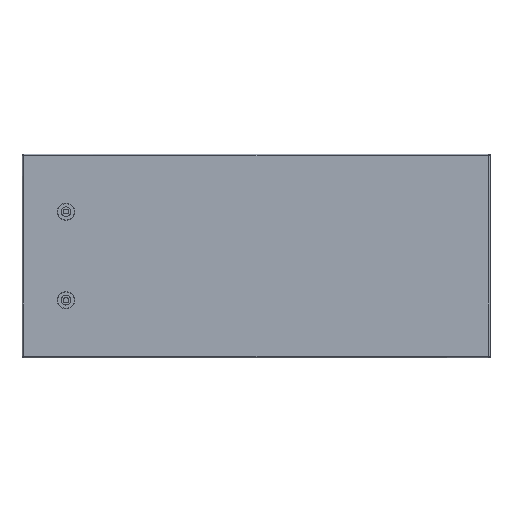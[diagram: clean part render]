
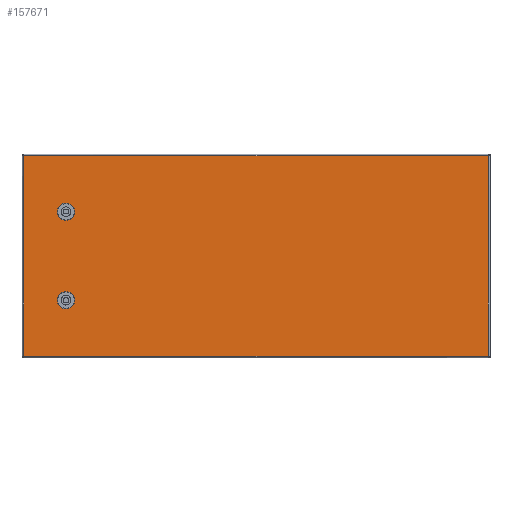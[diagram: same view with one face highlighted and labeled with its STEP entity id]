
A CAD part, top view. The second image highlights one B-rep face of the part: STEP entity #157671.
In plain terms, the highlighted planar face has unit normal (0, 0, 1).
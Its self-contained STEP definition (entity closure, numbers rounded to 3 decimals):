
#156781=CARTESIAN_POINT(' ',(2.8,0.8,0.));
#156786=DIRECTION(' ',(1.,0.,0.));
#156791=VECTOR(' ',#156786,1.);
#156796=LINE('',#156781,#156791);
#156801=CARTESIAN_POINT(' ',(2.8,0.8,0.));
#156802=VERTEX_POINT(' ',#156801);
#156806=CARTESIAN_POINT(' ',(791.2,0.8,0.));
#156807=VERTEX_POINT(' ',#156806);
#156811=EDGE_CURVE(' ',#156802,#156807,#156796,.T.);
#157531=DIRECTION(' ',(-0.,-0.,1.));
#157536=CARTESIAN_POINT(' ',(791.2,0.8,0.));
#157541=DIRECTION(' ',(0.,1.,0.));
#157546=AXIS2_PLACEMENT_3D(' ',#157536,#157531,#157541);
#157551=PLANE('NONE',#157546);
#157556=ORIENTED_EDGE(' ',*,*,#156811,.T.);
#157561=CARTESIAN_POINT(' ',(791.2,340.2,0.));
#157566=DIRECTION(' ',(0.,-1.,0.));
#157571=VECTOR(' ',#157566,1.);
#157576=LINE('',#157561,#157571);
#157581=CARTESIAN_POINT(' ',(791.2,340.2,0.));
#157582=VERTEX_POINT(' ',#157581);
#157586=EDGE_CURVE(' ',#157582,#156807,#157576,.T.);
#157591=ORIENTED_EDGE(' ',*,*,#157586,.F.);
#157596=CARTESIAN_POINT(' ',(791.2,340.2,0.));
#157601=DIRECTION(' ',(-1.,0.,0.));
#157606=VECTOR(' ',#157601,1.);
#157611=LINE('',#157596,#157606);
#157616=CARTESIAN_POINT(' ',(2.8,340.2,0.));
#157617=VERTEX_POINT(' ',#157616);
#157621=EDGE_CURVE(' ',#157582,#157617,#157611,.T.);
#157626=ORIENTED_EDGE(' ',*,*,#157621,.T.);
#157631=CARTESIAN_POINT(' ',(2.8,340.2,0.));
#157636=DIRECTION(' ',(0.,-1.,0.));
#157641=VECTOR(' ',#157636,1.);
#157646=LINE('',#157631,#157641);
#157651=EDGE_CURVE(' ',#157617,#156802,#157646,.T.);
#157656=ORIENTED_EDGE(' ',*,*,#157651,.T.);
#157661=EDGE_LOOP(' ',(#157556,#157591,#157626,#157656));
#157666=FACE_OUTER_BOUND(' ',#157661,.T.);
#157671=ADVANCED_FACE('NONE',(#157666),#157551,.T.);
